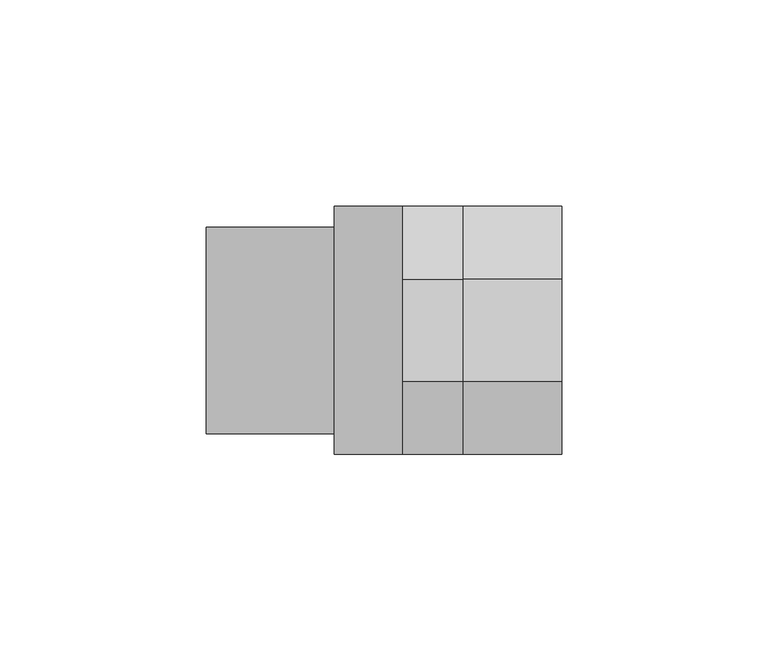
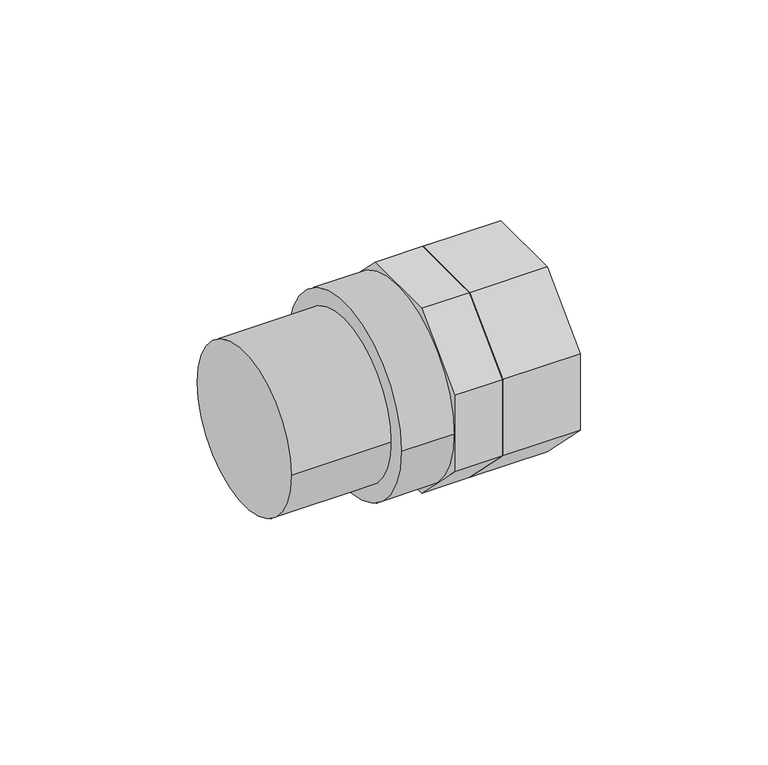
"""IFC4 building model written with IfcOpenShell, lengths in millimetres: pipe fitting geometry, PipeFitting_GirpiHTA_CPVC_AdaptorNipplesA_ForExpansionJoints : PipeFitting_GirpiHTA_CPVC_AdaptorNipplesA_ForExpansionJoints."""

from ifc_helpers import new_model, si_unit, point, frame, origin, origin_2d, place, context, project, spatial, polyline, circle_curve, trimmed, segment, composite_curve, outline, extrude, source, transform, mapped, element, save


def pipe_fitting_f6b52654(model_context):
    return source(origin(), model_context, "Body", "SweptSolid", [
        extrude(outline(polyline([(-30.0, 12.4264069), (-12.4264069, 30.0), (12.4264069, 30.0), (30.0, 12.4264069), (30.0, -12.4264069), (12.4264069, -30.0), (-12.4264069, -30.0), (-30.0, -12.4264069), (-30.0, 12.4264069)])), frame((19.25, 0.0, 0.0), z_axis=(1.0, 0.0, 0.0), x_axis=(0.0, 1.0, 0.0)), (0.0, 0.0, 1.0), 23.75),
        extrude(outline(composite_curve([segment(trimmed(circle_curve(origin_2d(), 15.875), [point((-15.875, 0.0))], [point((15.875, 0.0))], False, "CARTESIAN"), True, "CONTINUOUS"), segment(trimmed(circle_curve(origin_2d(), 15.875), [point((15.875, 0.0))], [point((-15.875, 0.0))], False, "CARTESIAN"), True, "CONTINUOUS")], self_intersect=False)), frame((21.0, 0.0, 0.0), z_axis=(1.0, 0.0, 0.0), x_axis=(0.0, 1.0, 0.0)), (0.0, 0.0, 1.0), 22.0),
        extrude(outline(polyline([(12.4264069, 30.0), (30.0, 12.4264069), (30.0, -12.4264069), (12.4264069, -30.0), (-12.4264069, -30.0), (-30.0, -12.4264069), (-30.0, 12.4264069), (-12.4264069, 30.0), (12.4264069, 30.0)])), frame((4.5, 0.0, 0.0), z_axis=(1.0, 0.0, 0.0), x_axis=(0.0, 1.0, 0.0)), (0.0, 0.0, 1.0), 16.5),
        extrude(outline(composite_curve([segment(trimmed(circle_curve(origin_2d(), 30.0), [point((-30.0, 0.0))], [point((30.0, 0.0))], False, "CARTESIAN"), True, "CONTINUOUS"), segment(trimmed(circle_curve(origin_2d(), 30.0), [point((30.0, 0.0))], [point((-30.0, 0.0))], False, "CARTESIAN"), True, "CONTINUOUS")], self_intersect=False)), frame((-12.0, 0.0, 0.0), z_axis=(1.0, 0.0, 0.0), x_axis=(0.0, 1.0, 0.0)), (0.0, 0.0, 1.0), 16.5),
        extrude(outline(composite_curve([segment(trimmed(circle_curve(origin_2d(), 25.0), [point((-25.0, 0.0))], [point((25.0, 0.0))], False, "CARTESIAN"), True, "CONTINUOUS"), segment(trimmed(circle_curve(origin_2d(), 25.0), [point((25.0, 0.0))], [point((-25.0, 0.0))], False, "CARTESIAN"), True, "CONTINUOUS")], self_intersect=False)), frame((-43.0, 0.0, 0.0), z_axis=(1.0, 0.0, 0.0), x_axis=(0.0, 1.0, 0.0)), (0.0, 0.0, 1.0), 31.0),
    ])


if __name__ == "__main__":
    model = new_model("IFC4")
    model_context = context("Model", 3, world=origin())
    ifc_project = project(units=[si_unit("LENGTHUNIT", "METRE", prefix="MILLI")], contexts=[model_context])
    site = spatial("IfcSite", under=ifc_project)
    building = spatial("IfcBuilding", under=site)
    placement = place(None, origin())
    pipe_fitting_shape = pipe_fitting_f6b52654(model_context)
    element("IfcPipeFitting", 1, ObjectType="PipeFitting_GirpiHTA_CPVC_AdaptorNipplesA_ForExpansionJoints : PipeFitting_GirpiHTA_CPVC_AdaptorNipplesA_ForExpansionJoints", at=placement, inside=building, context=model_context, shape_type="MappedRepresentation", body=[
        mapped(pipe_fitting_shape, transform((0.0, 0.0, 0.0), x_axis=(1.0, 0.0, 0.0), y_axis=(0.0, 1.0, 0.0), z_axis=(0.0, 0.0, 1.0))),
    ])
    save(model, "model.ifc")
